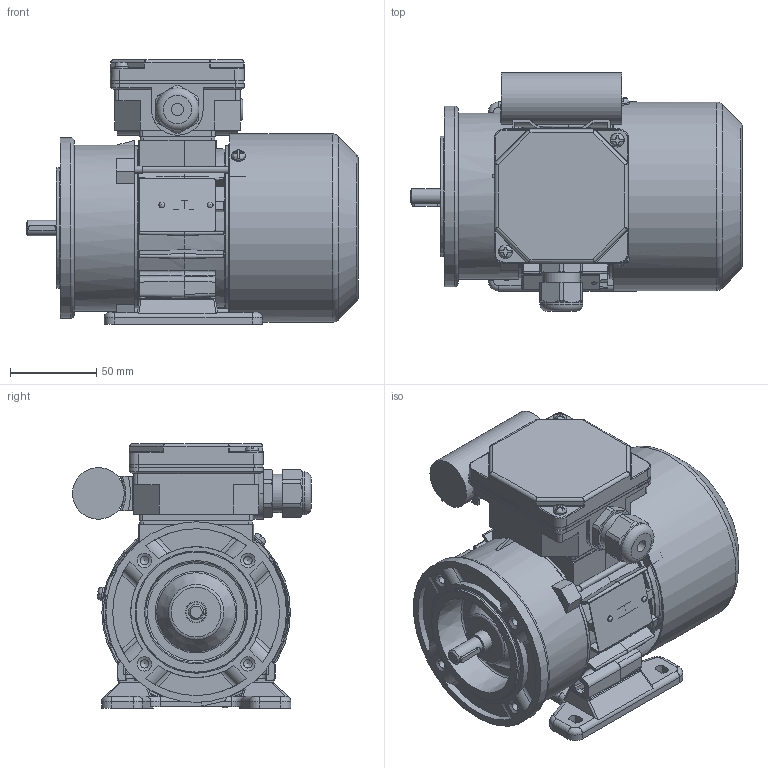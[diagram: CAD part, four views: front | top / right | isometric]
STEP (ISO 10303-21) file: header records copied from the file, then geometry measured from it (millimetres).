
FILE_DESCRIPTION( ( 'Unknown' ), '1' );
FILE_NAME( 'G:/Poczta Tk-1/STP/w.m.56/SEh56/SE(M)Lh56-B1.stp', 'Unknown', ( 'K. Szlosek' ), ( 'BESEL S.A.' ), 'PSStep 17.0.49', 'Unknown', ' ' );
FILE_SCHEMA( ( 'AUTOMOTIVE_DESIGN { 1 0 10303 214 1 1 1 1 }' ) );
Length unit declared in the file: millimetre
Products named in the file (32): Assem1; K4-2320 Uszczelka nr 1 Sh71,80; K3-9987 kadłub ze stojanem Sh56-B; K3-2193 Tarcza łożyskowa P Sg56-2..; K3-9990 wał Sh56-B; K2-0860 Pokrywka skrzynki zaciskowej; Wpust A3x3x16; K3-2977 Osłona przewietrznika Sg56; K4-2820 Uszczelka nr 2 Sh71,80; Wkręt samogwintujący M4x8; Wkręt samogwintujący M4x16; K2-0879 Przewietrznik Sg56; Nitokołek A 2x6; K3-9440 Podstawa  skrzynki zaciskowej SEhR71-D; K4-0898 Tulejka uszczelniająca; K3-1974 Uchwyt kondensatora (mały); Kondensator bb 8uF; K1-0529 Tarcza kołnierzowa B14_1 SKg56-..1; K1-0484 Łapa Sg56-.. w. robocza; Śruba ściągająca E_M4x75; Tabliczka znamionowa 32x44; Dławnica M20x1,5; Łożysko 6201
Assembly tree (47 placements, depth 2):
  Assem1
    K4-2320 Uszczelka nr 1 Sh71,80
    K3-9987 kadłub ze stojanem Sh56-B
    K3-2193 Tarcza łożyskowa P Sg56-2..
    K3-9990 wał Sh56-B
    K2-0860 Pokrywka skrzynki zaciskowej
    Wpust A3x3x16
    K3-2977 Osłona przewietrznika Sg56
    K4-2820 Uszczelka nr 2 Sh71,80
    Wkręt samogwintujący M4x8  x3
    Wkręt samogwintujący M4x16  x2
    K2-0879 Przewietrznik Sg56
    Nitokołek A 2x6  x2
    K3-9440 Podstawa  skrzynki zaciskowej SEhR71-D
    K4-0898 Tulejka uszczelniająca
    K3-1974 Uchwyt kondensatora (mały)
    Kondensator bb 8uF
    K1-0529 Tarcza kołnierzowa B14_1 SKg56-..1
    K1-0484 Łapa Sg56-.. w. robocza
    Śruba ściągająca E_M4x75  x3
    Tabliczka znamionowa 32x44
    Dławnica M20x1,5
    Łożysko 6201  x2
    Łożysko 6201  x2
    Łożysko 6201  x2
    Łożysko 6201  x2
    Łożysko 6201  x2
    Łożysko 6201  x2
    Łożysko 6201  x2
    Łożysko 6201  x2
    Łożysko 6201  x2
    Łożysko 6201  x2
Bounding box: 193 x 138.82 x 154 mm (x, y, z)
Volume: 545036.3 mm3; surface area: 333516.8 mm2
Topology: 47 solids, 63 shells, 1942 faces, 5220 edges, 3359 vertices
Faces by surface type: plane 996, cylinder 586, torus 140, cone 108, bspline 78, sphere 34
Full cylindrical faces by diameter (mm): 2 x2, 2.4 x2, 3 x1, 3.242 x3, 3.5 x2, 3.7 x10, 4 x8, 4.5 x4, 4.6 x1, 4.8 x4, 4.917 x4, 5 x4, 5.8 x4, 6.5 x1, 7 x4, 8 x6, 9 x1, 10 x2, 10.9 x1, 11 x1, 11.5 x1, 11.8 x2, 12 x4, 12.4 x2, 15.5 x1, 16 x1, 16.1 x1, 17 x2, 18 x1, 18.38 x1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
Entity records: 80821 total; most frequent: CARTESIAN_POINT 22944, DIRECTION 9141, ORIENTED_EDGE 8996, EDGE_CURVE 4498, AXIS2_PLACEMENT_3D 3386, VERTEX_POINT 3038, LINE 2369, VECTOR 2369
